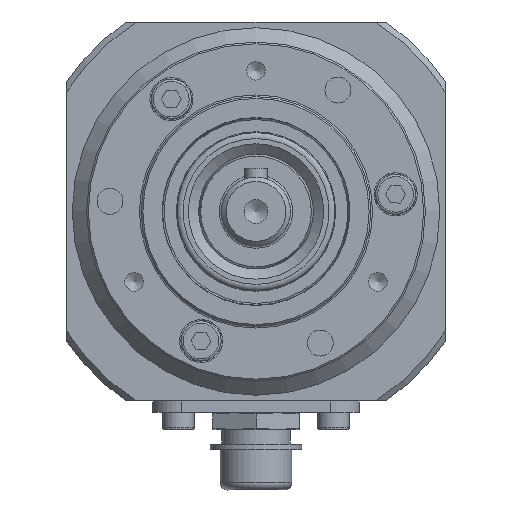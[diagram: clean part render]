
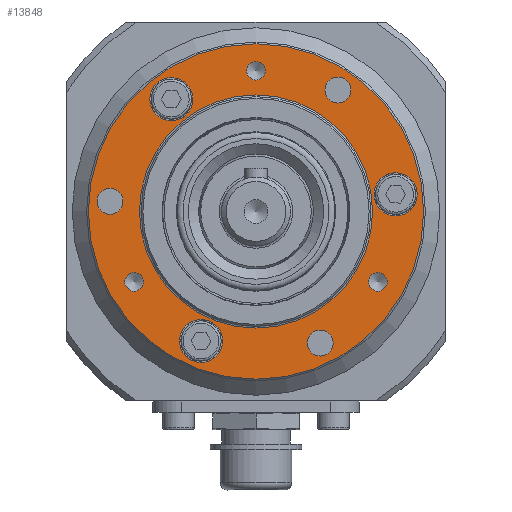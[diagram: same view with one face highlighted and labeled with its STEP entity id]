
A CAD part, left-side view. The second image highlights one B-rep face of the part: STEP entity #13848.
In plain terms, the highlighted planar face has unit normal (-1, 0, 0).
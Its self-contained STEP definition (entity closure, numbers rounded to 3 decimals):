
#99=FACE_BOUND('',#5486,.T.);
#100=FACE_BOUND('',#5487,.T.);
#101=FACE_BOUND('',#5488,.T.);
#102=FACE_BOUND('',#5489,.T.);
#103=FACE_BOUND('',#5490,.T.);
#104=FACE_BOUND('',#5491,.T.);
#105=FACE_BOUND('',#5492,.T.);
#106=FACE_BOUND('',#5493,.T.);
#107=FACE_BOUND('',#5494,.T.);
#108=FACE_BOUND('',#5495,.T.);
#3440=PLANE('',#14771);
#4597=FACE_OUTER_BOUND('',#5485,.T.);
#5485=EDGE_LOOP('',(#7153));
#5486=EDGE_LOOP('',(#7154));
#5487=EDGE_LOOP('',(#7155));
#5488=EDGE_LOOP('',(#7156));
#5489=EDGE_LOOP('',(#7157));
#5490=EDGE_LOOP('',(#7158));
#5491=EDGE_LOOP('',(#7159));
#5492=EDGE_LOOP('',(#7160));
#5493=EDGE_LOOP('',(#7161));
#5494=EDGE_LOOP('',(#7162));
#5495=EDGE_LOOP('',(#7163));
#7153=ORIENTED_EDGE('',*,*,#10812,.F.);
#7154=ORIENTED_EDGE('',*,*,#10819,.T.);
#7155=ORIENTED_EDGE('',*,*,#10820,.T.);
#7156=ORIENTED_EDGE('',*,*,#10821,.T.);
#7157=ORIENTED_EDGE('',*,*,#10822,.T.);
#7158=ORIENTED_EDGE('',*,*,#10823,.T.);
#7159=ORIENTED_EDGE('',*,*,#10824,.T.);
#7160=ORIENTED_EDGE('',*,*,#10814,.T.);
#7161=ORIENTED_EDGE('',*,*,#10816,.T.);
#7162=ORIENTED_EDGE('',*,*,#10817,.T.);
#7163=ORIENTED_EDGE('',*,*,#10825,.F.);
#10812=EDGE_CURVE('',#12649,#12649,#13530,.T.);
#10814=EDGE_CURVE('',#12651,#12651,#13532,.T.);
#10816=EDGE_CURVE('',#12653,#12653,#13534,.T.);
#10817=EDGE_CURVE('',#12654,#12654,#13535,.T.);
#10819=EDGE_CURVE('',#12656,#12656,#13537,.T.);
#10820=EDGE_CURVE('',#12657,#12657,#13538,.T.);
#10821=EDGE_CURVE('',#12658,#12658,#13539,.T.);
#10822=EDGE_CURVE('',#12659,#12659,#13540,.T.);
#10823=EDGE_CURVE('',#12660,#12660,#13541,.T.);
#10824=EDGE_CURVE('',#12661,#12661,#13542,.T.);
#10825=EDGE_CURVE('',#12662,#12662,#13543,.T.);
#12649=VERTEX_POINT('',#20635);
#12651=VERTEX_POINT('',#20640);
#12653=VERTEX_POINT('',#20646);
#12654=VERTEX_POINT('',#20649);
#12656=VERTEX_POINT('',#20655);
#12657=VERTEX_POINT('',#20657);
#12658=VERTEX_POINT('',#20659);
#12659=VERTEX_POINT('',#20661);
#12660=VERTEX_POINT('',#20663);
#12661=VERTEX_POINT('',#20665);
#12662=VERTEX_POINT('',#20667);
#13530=CIRCLE('',#14759,29.2);
#13532=CIRCLE('',#14762,1.621);
#13534=CIRCLE('',#14766,3.75);
#13535=CIRCLE('',#14768,2.25);
#13537=CIRCLE('',#14772,2.25);
#13538=CIRCLE('',#14773,3.75);
#13539=CIRCLE('',#14774,1.621);
#13540=CIRCLE('',#14775,2.25);
#13541=CIRCLE('',#14776,3.75);
#13542=CIRCLE('',#14777,1.621);
#13543=CIRCLE('',#14778,20.3);
#13848=ADVANCED_FACE('',(#4597,#99,#100,#101,#102,#103,#104,#105,#106,#107,
#108),#3440,.T.);
#14759=AXIS2_PLACEMENT_3D('',#20636,#16098,#16099);
#14762=AXIS2_PLACEMENT_3D('',#20641,#16104,#16105);
#14766=AXIS2_PLACEMENT_3D('',#20647,#16112,#16113);
#14768=AXIS2_PLACEMENT_3D('',#20650,#16116,#16117);
#14771=AXIS2_PLACEMENT_3D('',#20654,#16122,#16123);
#14772=AXIS2_PLACEMENT_3D('',#20656,#16124,#16125);
#14773=AXIS2_PLACEMENT_3D('',#20658,#16126,#16127);
#14774=AXIS2_PLACEMENT_3D('',#20660,#16128,#16129);
#14775=AXIS2_PLACEMENT_3D('',#20662,#16130,#16131);
#14776=AXIS2_PLACEMENT_3D('',#20664,#16132,#16133);
#14777=AXIS2_PLACEMENT_3D('',#20666,#16134,#16135);
#14778=AXIS2_PLACEMENT_3D('',#20668,#16136,#16137);
#16098=DIRECTION('center_axis',(1.,0.,0.));
#16099=DIRECTION('ref_axis',(0.,0.,
-1.));
#16104=DIRECTION('center_axis',(1.,0.,0.));
#16105=DIRECTION('ref_axis',(0.,-1.,0.));
#16112=DIRECTION('center_axis',(1.,0.,0.));
#16113=DIRECTION('ref_axis',(0.,-1.,0.));
#16116=DIRECTION('center_axis',(1.,0.,0.));
#16117=DIRECTION('ref_axis',(0.,-1.,0.));
#16122=DIRECTION('center_axis',(-1.,0.,0.));
#16123=DIRECTION('ref_axis',(0.,-1.,0.));
#16124=DIRECTION('center_axis',(1.,0.,0.));
#16125=DIRECTION('ref_axis',(0.,0.5,0.866));
#16126=DIRECTION('center_axis',(1.,0.,0.));
#16127=DIRECTION('ref_axis',(0.,0.5,0.866));
#16128=DIRECTION('center_axis',(1.,0.,0.));
#16129=DIRECTION('ref_axis',(0.,0.5,0.866));
#16130=DIRECTION('center_axis',(1.,0.,0.));
#16131=DIRECTION('ref_axis',(0.,0.5,-0.866));
#16132=DIRECTION('center_axis',(1.,0.,0.));
#16133=DIRECTION('ref_axis',(0.,0.5,-0.866));
#16134=DIRECTION('center_axis',(1.,0.,0.));
#16135=DIRECTION('ref_axis',(0.,0.5,-0.866));
#16136=DIRECTION('center_axis',(-1.,0.,0.));
#16137=DIRECTION('ref_axis',(0.,0.,
-1.));
#20635=CARTESIAN_POINT('',(3.,0.,29.2));
#20636=CARTESIAN_POINT('Origin',(3.,0.,
0.));
#20640=CARTESIAN_POINT('',(3.,1.621,24.5));
#20641=CARTESIAN_POINT('Origin',(3.,0.,
24.5));
#20646=CARTESIAN_POINT('',(3.,18.494,19.567));
#20647=CARTESIAN_POINT('Origin',(3.,14.744,19.567));
#20649=CARTESIAN_POINT('',(3.,-14.259,23.39));
#20650=CARTESIAN_POINT('Origin',(3.,-14.259,21.14));
#20654=CARTESIAN_POINT('Origin',(3.,0.,
24.75));
#20655=CARTESIAN_POINT('',(3.,24.313,-0.17));
#20656=CARTESIAN_POINT('Origin',(3.,25.438,1.779));
#20657=CARTESIAN_POINT('',(3.,7.698,-25.8));
#20658=CARTESIAN_POINT('Origin',(3.,9.573,-22.552));
#20659=CARTESIAN_POINT('',(3.,20.407,-13.654));
#20660=CARTESIAN_POINT('Origin',(3.,21.218,-12.25));
#20661=CARTESIAN_POINT('',(3.,-12.303,-20.971));
#20662=CARTESIAN_POINT('Origin',(3.,-11.178,-22.919));
#20663=CARTESIAN_POINT('',(3.,-26.192,6.233));
#20664=CARTESIAN_POINT('Origin',(3.,-24.317,2.986));
#20665=CARTESIAN_POINT('',(3.,-22.028,-10.846));
#20666=CARTESIAN_POINT('Origin',(3.,-21.218,-12.25));
#20667=CARTESIAN_POINT('',(3.,0.,20.3));
#20668=CARTESIAN_POINT('Origin',(3.,0.,
0.));
